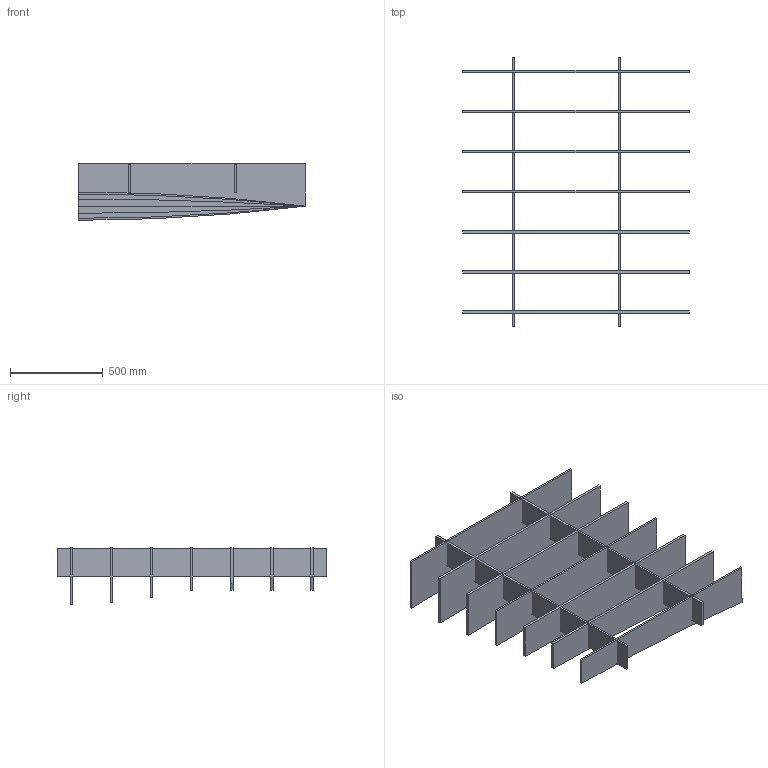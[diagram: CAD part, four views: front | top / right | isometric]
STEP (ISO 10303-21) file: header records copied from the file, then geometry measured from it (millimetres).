
FILE_DESCRIPTION(/* description */ (''),/* implementation_level */ '2;1');
FILE_NAME(/* name */ 'Topo Swell Half Frame Simplified',/* time_stamp */ '2026-04-13T11:40:50-05:00',/* author */ (''),/* organization */ (''),/* preprocessor_version */ 'ST-DEVELOPER v19.2',/* originating_system */ 'Rhino 8.29',/* authorisation */ '');
FILE_SCHEMA (('CONFIG_CONTROL_DESIGN'));
Length unit declared in the file: inch
Products named in the file (1): Document
Bounding box: 1219.2 x 1450.61 x 304.8 mm (x, y, z)
Volume: 30392477.8 mm3; surface area: 5125228.5 mm2
Topology: 9 solids, 9 shells, 54 faces, 108 edges, 72 vertices
Faces by surface type: plane 48, cylinder 6
Entity records: 1336 total; most frequent: CARTESIAN_POINT 356, ORIENTED_EDGE 216, EDGE_CURVE 108, B_SPLINE_CURVE_WITH_KNOTS 90, DIRECTION 82, VERTEX_POINT 72, AXIS2_PLACEMENT_3D 68, ADVANCED_FACE 54
